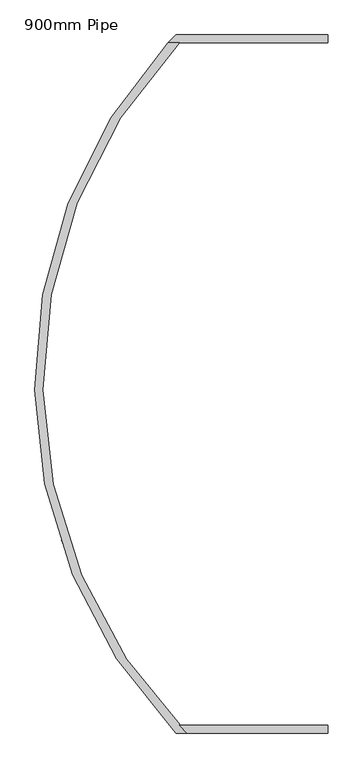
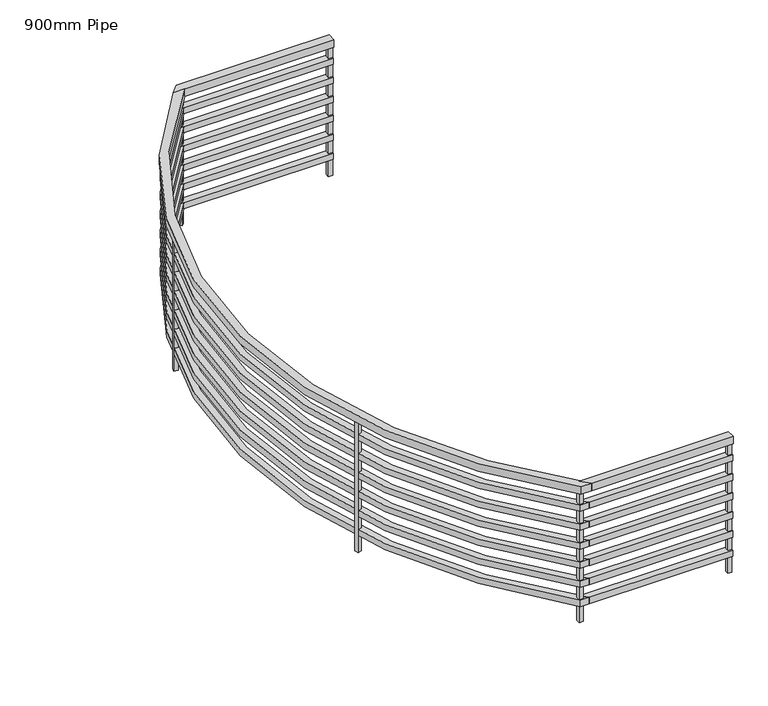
"""IFC4 building model written with IfcOpenShell, lengths in millimetres: railing geometry, 900mm Pipe."""

from ifc_helpers import new_model, si_unit, point, frame, frame_2d, origin, place, context, project, spatial, polyline, circle_curve, trimmed, segment, composite_curve, outline, extrude, source, transform, mapped, element, save


def railing_900mm_pipe_7ffbcec4(model_context):
    return source(origin(), model_context, "Body", "SweptSolid", [
        extrude(outline(polyline([(-12637.1962165, 2217.6290541), (-12637.1962165, 2167.6290541), (-13516.2695382, 2167.6290541), (-13564.3086094, 2217.6290541), (-12637.1962165, 2217.6290541)])), frame((0.0, 0.0, 6650.0), z_axis=(0.0, 0.0, 1.0), x_axis=(1.0, 0.0, 0.0)), (0.0, 0.0, 1.0), 50.0),
        extrude(outline(composite_curve([segment(trimmed(circle_curve(frame_2d((-11337.1962165, 4342.6290541)), 3078.236703), [point((-13564.2831478, 6467.6290541))], [point((-13515.4790723, 2167.6290541))], True, "CARTESIAN"), True, "CONTINUOUS"), segment(polyline([(-13515.4790723, 2167.6290541), (-13585.5822754, 2167.6290541)]), True, "CONTINUOUS"), segment(trimmed(circle_curve(frame_2d((-11337.1962165, 4342.6290541)), 3128.236703), [point((-13585.5822754, 2167.6290541))], [point((-13632.8965171, 6467.6290541))], False, "CARTESIAN"), True, "CONTINUOUS"), segment(polyline([(-13632.8965171, 6467.6290541), (-13564.2831478, 6467.6290541)]), True, "CONTINUOUS")], self_intersect=False)), frame((0.0, 0.0, 6650.0), z_axis=(0.0, 0.0, 1.0), x_axis=(1.0, 0.0, 0.0)), (0.0, 0.0, 1.0), 50.0),
        extrude(outline(polyline([(-13633.0166998, 6467.6290541), (-13586.0349334, 6517.6290541), (-12637.1962165, 6517.6290541), (-12637.1962165, 6467.6290541), (-13633.0166998, 6467.6290541)])), frame((0.0, 0.0, 6650.0), z_axis=(0.0, 0.0, 1.0), x_axis=(1.0, 0.0, 0.0)), (0.0, 0.0, 1.0), 50.0),
        extrude(outline(polyline([(-12637.1962165, 2212.6290541), (-12637.1962165, 2172.6290541), (-13528.0072411, 2172.6290541), (-13566.438498, 2212.6290541), (-12637.1962165, 2212.6290541)])), frame((0.0, 0.0, 6535.0), z_axis=(0.0, 0.0, 1.0), x_axis=(1.0, 0.0, 0.0)), (0.0, 0.0, 1.0), 40.0),
        extrude(outline(composite_curve([segment(trimmed(circle_curve(frame_2d((-11337.1962165, 4342.6290541)), 3083.236703), [point((-13566.4222182, 6472.6290541))], [point((-13527.5040868, 2172.6290541))], True, "CARTESIAN"), True, "CONTINUOUS"), segment(polyline([(-13527.5040868, 2172.6290541), (-13583.4614508, 2172.6290541)]), True, "CONTINUOUS"), segment(trimmed(circle_curve(frame_2d((-11337.1962165, 4342.6290541)), 3123.236703), [point((-13583.4614508, 2172.6290541))], [point((-13621.4263938, 6472.6290541))], False, "CARTESIAN"), True, "CONTINUOUS"), segment(polyline([(-13621.4263938, 6472.6290541), (-13566.4222182, 6472.6290541)]), True, "CONTINUOUS")], self_intersect=False)), frame((0.0, 0.0, 6535.0), z_axis=(0.0, 0.0, 1.0), x_axis=(1.0, 0.0, 0.0)), (0.0, 0.0, 1.0), 40.0),
        extrude(outline(polyline([(-13621.5043864, 6472.6290541), (-13583.7519342, 6512.6290541), (-12637.1962165, 6512.6290541), (-12637.1962165, 6472.6290541), (-13621.5043864, 6472.6290541)])), frame((0.0, 0.0, 6535.0), z_axis=(0.0, 0.0, 1.0), x_axis=(1.0, 0.0, 0.0)), (0.0, 0.0, 1.0), 40.0),
        extrude(outline(polyline([(-12637.1962165, 2212.6290541), (-12637.1962165, 2172.6290541), (-13528.0072411, 2172.6290541), (-13566.438498, 2212.6290541), (-12637.1962165, 2212.6290541)])), frame((0.0, 0.0, 6410.0), z_axis=(0.0, 0.0, 1.0), x_axis=(1.0, 0.0, 0.0)), (0.0, 0.0, 1.0), 40.0),
        extrude(outline(composite_curve([segment(trimmed(circle_curve(frame_2d((-11337.1962165, 4342.6290541)), 3083.236703), [point((-13566.4222182, 6472.6290541))], [point((-13527.5040868, 2172.6290541))], True, "CARTESIAN"), True, "CONTINUOUS"), segment(polyline([(-13527.5040868, 2172.6290541), (-13583.4614508, 2172.6290541)]), True, "CONTINUOUS"), segment(trimmed(circle_curve(frame_2d((-11337.1962165, 4342.6290541)), 3123.236703), [point((-13583.4614508, 2172.6290541))], [point((-13621.4263938, 6472.6290541))], False, "CARTESIAN"), True, "CONTINUOUS"), segment(polyline([(-13621.4263938, 6472.6290541), (-13566.4222182, 6472.6290541)]), True, "CONTINUOUS")], self_intersect=False)), frame((0.0, 0.0, 6410.0), z_axis=(0.0, 0.0, 1.0), x_axis=(1.0, 0.0, 0.0)), (0.0, 0.0, 1.0), 40.0),
        extrude(outline(polyline([(-13621.5043864, 6472.6290541), (-13583.7519342, 6512.6290541), (-12637.1962165, 6512.6290541), (-12637.1962165, 6472.6290541), (-13621.5043864, 6472.6290541)])), frame((0.0, 0.0, 6410.0), z_axis=(0.0, 0.0, 1.0), x_axis=(1.0, 0.0, 0.0)), (0.0, 0.0, 1.0), 40.0),
        extrude(outline(polyline([(-12637.1962165, 2212.6290541), (-12637.1962165, 2172.6290541), (-13528.0072411, 2172.6290541), (-13566.438498, 2212.6290541), (-12637.1962165, 2212.6290541)])), frame((0.0, 0.0, 6285.0), z_axis=(0.0, 0.0, 1.0), x_axis=(1.0, 0.0, 0.0)), (0.0, 0.0, 1.0), 40.0),
        extrude(outline(composite_curve([segment(trimmed(circle_curve(frame_2d((-11337.1962165, 4342.6290541)), 3083.236703), [point((-13566.4222182, 6472.6290541))], [point((-13527.5040868, 2172.6290541))], True, "CARTESIAN"), True, "CONTINUOUS"), segment(polyline([(-13527.5040868, 2172.6290541), (-13583.4614508, 2172.6290541)]), True, "CONTINUOUS"), segment(trimmed(circle_curve(frame_2d((-11337.1962165, 4342.6290541)), 3123.236703), [point((-13583.4614508, 2172.6290541))], [point((-13621.4263938, 6472.6290541))], False, "CARTESIAN"), True, "CONTINUOUS"), segment(polyline([(-13621.4263938, 6472.6290541), (-13566.4222182, 6472.6290541)]), True, "CONTINUOUS")], self_intersect=False)), frame((0.0, 0.0, 6285.0), z_axis=(0.0, 0.0, 1.0), x_axis=(1.0, 0.0, 0.0)), (0.0, 0.0, 1.0), 40.0),
        extrude(outline(polyline([(-13621.5043864, 6472.6290541), (-13583.7519342, 6512.6290541), (-12637.1962165, 6512.6290541), (-12637.1962165, 6472.6290541), (-13621.5043864, 6472.6290541)])), frame((0.0, 0.0, 6285.0), z_axis=(0.0, 0.0, 1.0), x_axis=(1.0, 0.0, 0.0)), (0.0, 0.0, 1.0), 40.0),
        extrude(outline(polyline([(-12637.1962165, 2212.6290541), (-12637.1962165, 2172.6290541), (-13528.0072411, 2172.6290541), (-13566.438498, 2212.6290541), (-12637.1962165, 2212.6290541)])), frame((0.0, 0.0, 6160.0), z_axis=(0.0, 0.0, 1.0), x_axis=(1.0, 0.0, 0.0)), (0.0, 0.0, 1.0), 40.0),
        extrude(outline(composite_curve([segment(trimmed(circle_curve(frame_2d((-11337.1962165, 4342.6290541)), 3083.236703), [point((-13566.4222182, 6472.6290541))], [point((-13527.5040868, 2172.6290541))], True, "CARTESIAN"), True, "CONTINUOUS"), segment(polyline([(-13527.5040868, 2172.6290541), (-13583.4614508, 2172.6290541)]), True, "CONTINUOUS"), segment(trimmed(circle_curve(frame_2d((-11337.1962165, 4342.6290541)), 3123.236703), [point((-13583.4614508, 2172.6290541))], [point((-13621.4263938, 6472.6290541))], False, "CARTESIAN"), True, "CONTINUOUS"), segment(polyline([(-13621.4263938, 6472.6290541), (-13566.4222182, 6472.6290541)]), True, "CONTINUOUS")], self_intersect=False)), frame((0.0, 0.0, 6160.0), z_axis=(0.0, 0.0, 1.0), x_axis=(1.0, 0.0, 0.0)), (0.0, 0.0, 1.0), 40.0),
        extrude(outline(polyline([(-13621.5043864, 6472.6290541), (-13583.7519342, 6512.6290541), (-12637.1962165, 6512.6290541), (-12637.1962165, 6472.6290541), (-13621.5043864, 6472.6290541)])), frame((0.0, 0.0, 6160.0), z_axis=(0.0, 0.0, 1.0), x_axis=(1.0, 0.0, 0.0)), (0.0, 0.0, 1.0), 40.0),
        extrude(outline(polyline([(-12637.1962165, 2212.6290541), (-12637.1962165, 2172.6290541), (-13528.0072411, 2172.6290541), (-13566.438498, 2212.6290541), (-12637.1962165, 2212.6290541)])), frame((0.0, 0.0, 6035.0), z_axis=(0.0, 0.0, 1.0), x_axis=(1.0, 0.0, 0.0)), (0.0, 0.0, 1.0), 40.0),
        extrude(outline(composite_curve([segment(trimmed(circle_curve(frame_2d((-11337.1962165, 4342.6290541)), 3083.236703), [point((-13566.4222182, 6472.6290541))], [point((-13527.5040868, 2172.6290541))], True, "CARTESIAN"), True, "CONTINUOUS"), segment(polyline([(-13527.5040868, 2172.6290541), (-13583.4614508, 2172.6290541)]), True, "CONTINUOUS"), segment(trimmed(circle_curve(frame_2d((-11337.1962165, 4342.6290541)), 3123.236703), [point((-13583.4614508, 2172.6290541))], [point((-13621.4263938, 6472.6290541))], False, "CARTESIAN"), True, "CONTINUOUS"), segment(polyline([(-13621.4263938, 6472.6290541), (-13566.4222182, 6472.6290541)]), True, "CONTINUOUS")], self_intersect=False)), frame((0.0, 0.0, 6035.0), z_axis=(0.0, 0.0, 1.0), x_axis=(1.0, 0.0, 0.0)), (0.0, 0.0, 1.0), 40.0),
        extrude(outline(polyline([(-13621.5043864, 6472.6290541), (-13583.7519342, 6512.6290541), (-12637.1962165, 6512.6290541), (-12637.1962165, 6472.6290541), (-13621.5043864, 6472.6290541)])), frame((0.0, 0.0, 6035.0), z_axis=(0.0, 0.0, 1.0), x_axis=(1.0, 0.0, 0.0)), (0.0, 0.0, 1.0), 40.0),
        extrude(outline(polyline([(-12637.1962165, 2212.6290541), (-12637.1962165, 2172.6290541), (-13528.0072411, 2172.6290541), (-13566.438498, 2212.6290541), (-12637.1962165, 2212.6290541)])), frame((0.0, 0.0, 5910.0), z_axis=(0.0, 0.0, 1.0), x_axis=(1.0, 0.0, 0.0)), (0.0, 0.0, 1.0), 40.0),
        extrude(outline(composite_curve([segment(trimmed(circle_curve(frame_2d((-11337.1962165, 4342.6290541)), 3083.236703), [point((-13566.4222182, 6472.6290541))], [point((-13527.5040868, 2172.6290541))], True, "CARTESIAN"), True, "CONTINUOUS"), segment(polyline([(-13527.5040868, 2172.6290541), (-13583.4614508, 2172.6290541)]), True, "CONTINUOUS"), segment(trimmed(circle_curve(frame_2d((-11337.1962165, 4342.6290541)), 3123.236703), [point((-13583.4614508, 2172.6290541))], [point((-13621.4263938, 6472.6290541))], False, "CARTESIAN"), True, "CONTINUOUS"), segment(polyline([(-13621.4263938, 6472.6290541), (-13566.4222182, 6472.6290541)]), True, "CONTINUOUS")], self_intersect=False)), frame((0.0, 0.0, 5910.0), z_axis=(0.0, 0.0, 1.0), x_axis=(1.0, 0.0, 0.0)), (0.0, 0.0, 1.0), 40.0),
        extrude(outline(polyline([(-13621.5043864, 6472.6290541), (-13583.7519342, 6512.6290541), (-12637.1962165, 6512.6290541), (-12637.1962165, 6472.6290541), (-13621.5043864, 6472.6290541)])), frame((0.0, 0.0, 5910.0), z_axis=(0.0, 0.0, 1.0), x_axis=(1.0, 0.0, 0.0)), (0.0, 0.0, 1.0), 40.0),
        extrude(outline(polyline([(-14296.5155568, 5317.5139162), (-14288.598156, 5341.2270932), (-14264.884979, 5333.3096924), (-14272.8023798, 5309.5965154), (-14296.5155568, 5317.5139162)])), frame((0.0, 0.0, 5800.0), z_axis=(0.0, 0.0, 1.0), x_axis=(1.0, 0.0, 0.0)), (0.0, 0.0, 1.0), 850.0),
        extrude(outline(polyline([(-14288.598156, 3344.0310149), (-14296.5155568, 3367.744192), (-14272.8023798, 3375.6615928), (-14264.884979, 3351.9484157), (-14288.598156, 3344.0310149)])), frame((0.0, 0.0, 5800.0), z_axis=(0.0, 0.0, 1.0), x_axis=(1.0, 0.0, 0.0)), (0.0, 0.0, 1.0), 850.0),
        extrude(outline(polyline([(-13592.6321871, 6492.2755448), (-13575.3115618, 6510.3031886), (-13557.283918, 6492.9825634), (-13574.6045433, 6474.9549196), (-13592.6321871, 6492.2755448)])), frame((0.0, 0.0, 5800.0), z_axis=(0.0, 0.0, 1.0), x_axis=(1.0, 0.0, 0.0)), (0.0, 0.0, 1.0), 850.0),
        extrude(outline(polyline([(-13562.4580526, 2180.1290541), (-13587.4580526, 2180.1290541), (-13587.4580526, 2205.1290541), (-13562.4580526, 2205.1290541), (-13562.4580526, 2180.1290541)])), frame((0.0, 0.0, 5800.0), z_axis=(0.0, 0.0, 1.0), x_axis=(1.0, 0.0, 0.0)), (0.0, 0.0, 1.0), 850.0),
        extrude(outline(polyline([(-12662.1962165, 6505.1290541), (-12637.1962165, 6505.1290541), (-12637.1962165, 6480.1290541), (-12662.1962165, 6480.1290541), (-12662.1962165, 6505.1290541)])), frame((0.0, 0.0, 5800.0), z_axis=(0.0, 0.0, 1.0), x_axis=(1.0, 0.0, 0.0)), (0.0, 0.0, 1.0), 850.0),
        extrude(outline(polyline([(-12637.1962165, 2180.1290541), (-12662.1962165, 2180.1290541), (-12662.1962165, 2205.1290541), (-12637.1962165, 2205.1290541), (-12637.1962165, 2180.1290541)])), frame((0.0, 0.0, 5800.0), z_axis=(0.0, 0.0, 1.0), x_axis=(1.0, 0.0, 0.0)), (0.0, 0.0, 1.0), 850.0),
    ])


if __name__ == "__main__":
    model = new_model("IFC4")
    model_context = context("Model", 3, world=origin())
    ifc_project = project(units=[si_unit("LENGTHUNIT", "METRE", prefix="MILLI")], contexts=[model_context])
    site = spatial("IfcSite", under=ifc_project)
    building = spatial("IfcBuilding", under=site)
    placement = place(None, origin())
    railing_900mm_pipe_shape = railing_900mm_pipe_7ffbcec4(model_context)
    element("IfcRailing", 1, ObjectType="900mm Pipe", at=placement, inside=building, context=model_context, shape_type="MappedRepresentation", body=[
        mapped(railing_900mm_pipe_shape, transform((0.0, 0.0, 0.0), x_axis=(1.0, 0.0, 0.0), y_axis=(0.0, 1.0, 0.0), z_axis=(0.0, 0.0, 1.0))),
    ])
    save(model, "model.ifc")
